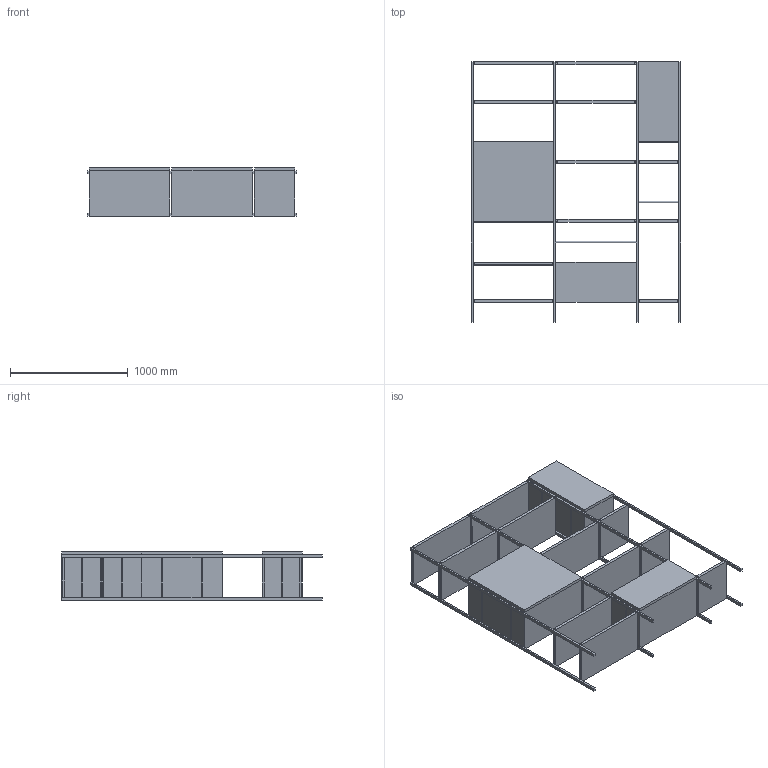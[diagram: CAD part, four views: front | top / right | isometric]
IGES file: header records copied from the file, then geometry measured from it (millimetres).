
Global section: file name: C:\Users\ComiIsacco\Desktop\outline C.igs; native system: Rhinoceros ( Mar  9 2011 ); preprocessor: Trout Lake IGES 012 Mar  9 2011; date: 200302.145319; units: millimetre
Bounding box: 1778 x 2210 x 410.08 mm (x, y, z)
Surface area: 16542919.2 mm2 (no closed solid volume)
Topology: 0 solids, 0 shells, 331 faces, 1724 edges, 1724 vertices
Faces by surface type: bspline 331
